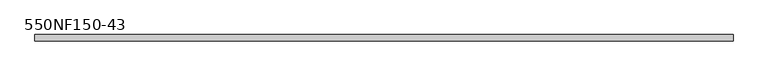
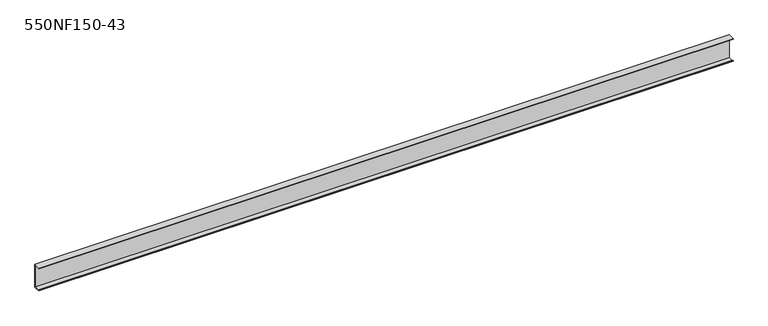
"""IFC4 building model written with IfcOpenShell, lengths in millimetres: beam geometry, BIMSF-SSMA-S : 550NF150-43."""

from ifc_helpers import new_model, si_unit, frame, origin, place, context, project, spatial, polyline, outline, extrude, source, transform, mapped, element, save


def beam_550nf150_43_636a8a9b(model_context):
    return source(origin(), model_context, "Body", "SweptSolid", [
        extrude(outline(polyline([(19.05, 69.85), (19.05, -69.85), (-19.05, -69.85), (-19.05, -65.0748), (-17.9003158, -65.0748), (-17.9003158, -68.7003158), (17.9003158, -68.7003158), (17.9003158, 68.7003158), (-17.9003158, 68.7003158), (-17.9003158, 65.0748), (-19.05, 65.0748), (-19.05, 69.85), (19.05, 69.85)])), frame((-2020.8875, 0.0, 0.0), z_axis=(1.0, 0.0, 0.0), x_axis=(0.0, 1.0, 0.0)), (0.0, 0.0, 1.0), 4041.775),
    ])


if __name__ == "__main__":
    model = new_model("IFC4")
    model_context = context("Model", 3, world=origin())
    ifc_project = project(units=[si_unit("LENGTHUNIT", "METRE", prefix="MILLI")], contexts=[model_context])
    site = spatial("IfcSite", under=ifc_project)
    building = spatial("IfcBuilding", under=site)
    placement = place(None, origin())
    beam_550nf150_43_shape = beam_550nf150_43_636a8a9b(model_context)
    element("IfcBeam", 1, ObjectType="BIMSF-SSMA-S : 550NF150-43", at=placement, inside=building, context=model_context, shape_type="MappedRepresentation", body=[
        mapped(beam_550nf150_43_shape, transform((0.0, 0.0, 0.0), x_axis=(1.0, 0.0, 0.0), y_axis=(0.0, 1.0, 0.0), z_axis=(0.0, 0.0, 1.0))),
    ])
    save(model, "model.ifc")
